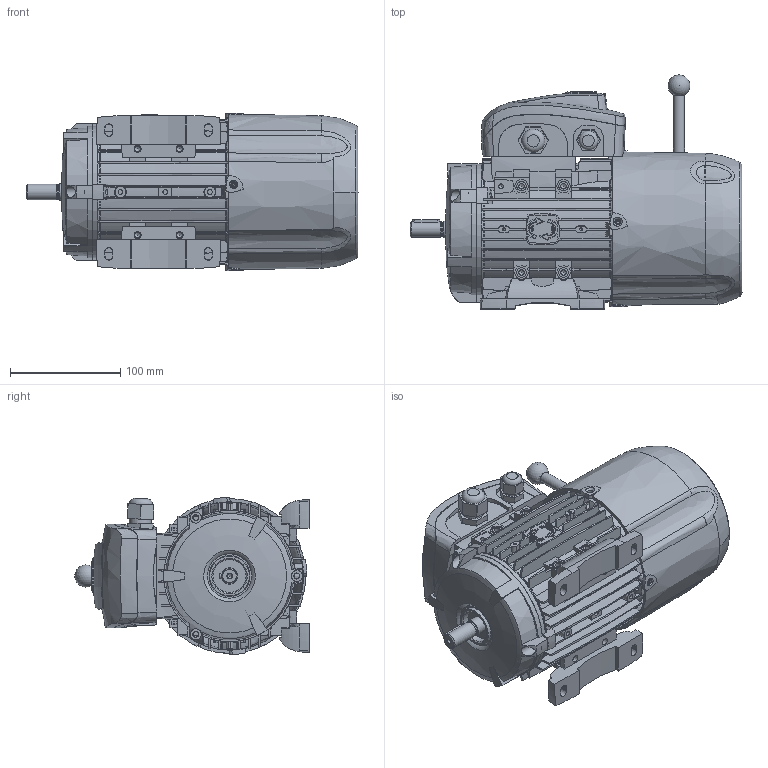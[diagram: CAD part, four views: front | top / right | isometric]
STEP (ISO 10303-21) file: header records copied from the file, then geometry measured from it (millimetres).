
FILE_DESCRIPTION((''),'2;1');
FILE_NAME('D:\htdocs\motive\source_step\M71.stp','2014-09-02T16:39:23',('ing.Casini'),(''),'Autodesk Inventor 2010','Autodesk Inventor 2010','');
FILE_SCHEMA(('AUTOMOTIVE_DESIGN { 1 0 10303 214 1 1 1 1 }'));
Length unit declared in the file: millimetre
Products named in the file (7): M71 Lighter motor Assly_14.08; BODY71; B371; SH71; FEET71_1; TBOXATDC63_80; FCVATDC71
Assembly tree (7 placements, depth 2):
  M71 Lighter motor Assly_14.08
    BODY71
    B371
    SH71
    FEET71_1  x2
    TBOXATDC63_80
    FCVATDC71
Bounding box: 300.52 x 211.92 x 142.2 mm (x, y, z)
Volume: 829726 mm3; surface area: 461162.6 mm2
Topology: 9 solids, 9 shells, 2167 faces, 6152 edges, 4102 vertices
Faces by surface type: plane 802, bspline 500, cylinder 441, cone 276, torus 147, sphere 1
Full cylindrical faces by diameter (mm): 2.5 x4, 3.3 x4, 4.2 x19, 5 x22, 5.4 x3, 5.5 x3, 8.5 x12, 10 x4, 10.418 x1, 13.3 x1, 14 x1, 15 x2, 16 x1, 20 x1, 25 x1, 28 x1, 30 x1, 35 x1, 110 x1, 111 x2, 112 x1
Entity records: 105856 total; most frequent: CARTESIAN_POINT 55720, ORIENTED_EDGE 11574, DIRECTION 8619, EDGE_CURVE 5787, VERTEX_POINT 3937, AXIS2_PLACEMENT_3D 3254, EDGE_LOOP 2406, VECTOR 2111
